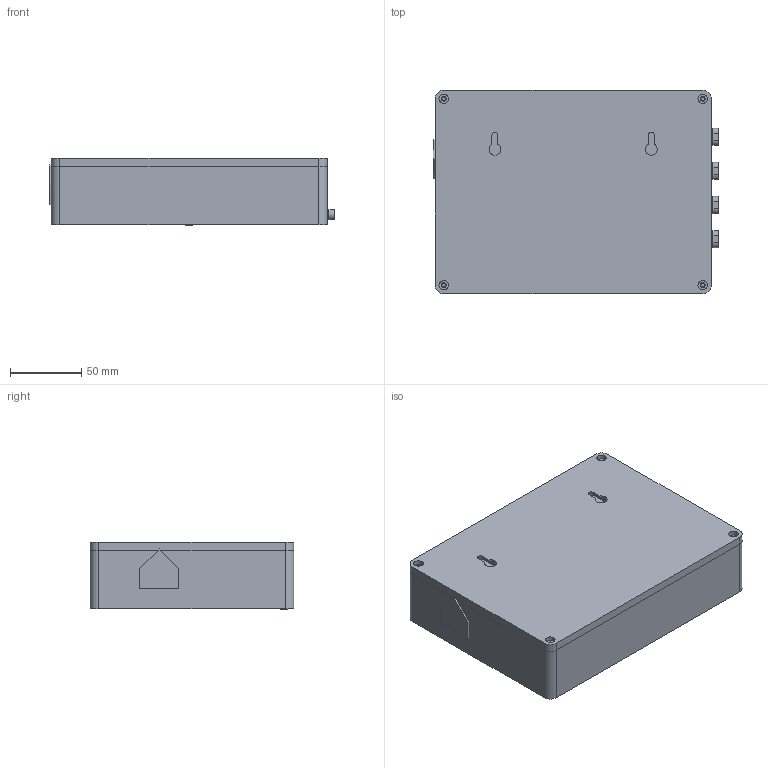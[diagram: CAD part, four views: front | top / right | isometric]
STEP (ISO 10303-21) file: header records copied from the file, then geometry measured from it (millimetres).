
FILE_DESCRIPTION(('Open CASCADE Model'),'2;1');
FILE_NAME('Open CASCADE Shape Model','2026-11-15T10:52:12',('Author'),( 'Open CASCADE'),'Open CASCADE STEP processor 7.8','Open CASCADE 7.8' ,'Unknown');
FILE_SCHEMA(('AUTOMOTIVE_DESIGN { 1 0 10303 214 1 1 1 1 }'));
Length unit declared in the file: millimetre
Products named in the file (13): Mount_Madonna_Inky_Case; body; back_panel; plunger_1; cap_1; plunger_2; cap_2; plunger_3; cap_3; plunger_4; cap_4; charging_cover; optional_led_blank
Assembly tree (12 placements, depth 2):
  Mount_Madonna_Inky_Case
    body
    back_panel
    plunger_1
    cap_1
    plunger_2
    cap_2
    plunger_3
    cap_3
    plunger_4
    cap_4
    charging_cover
    optional_led_blank
Bounding box: 200.6 x 143.2 x 47.8 mm (x, y, z)
Volume: 277768.6 mm3; surface area: 144804.8 mm2
Topology: 12 solids, 12 shells, 311 faces, 715 edges, 474 vertices
Faces by surface type: plane 170, cylinder 97, extrusion 40, cone 4
Full cylindrical faces by diameter (mm): 1.7 x8, 2.2 x4, 2.5 x4, 3 x1, 3.2 x1, 3.4 x4, 4.2 x4, 4.4 x8, 4.6 x4, 4.8 x1, 5 x4, 5.6 x4, 6.6 x4, 8.5 x4
Entity records: 19778 total; most frequent: CARTESIAN_POINT 5013, DIRECTION 2653, VECTOR 1565, LINE 1525, ORIENTED_EDGE 1430, PCURVE 1430, DEFINITIONAL_REPRESENTATION 1430, EDGE_CURVE 715
